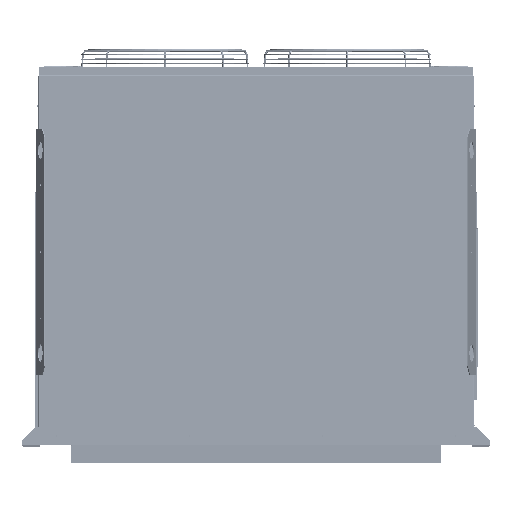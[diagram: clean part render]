
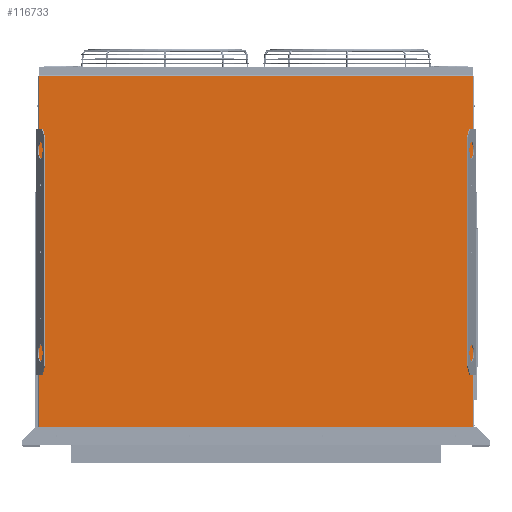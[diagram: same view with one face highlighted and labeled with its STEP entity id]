
A CAD part, top view. The second image highlights one B-rep face of the part: STEP entity #116733.
In plain terms, the highlighted planar face has unit normal (0, 0.044, 0.999) as drawn and (0, 0, 1) by its records, which use the part's own axes.
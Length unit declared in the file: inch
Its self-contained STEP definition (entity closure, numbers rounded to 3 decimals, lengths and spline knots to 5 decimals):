
#2157 = ORIENTED_EDGE ( 'NONE', *, *, #45679, .T. ) ;
#2556 = AXIS2_PLACEMENT_3D ( 'NONE', #151057, #55815, #167080 ) ;
#3056 = DIRECTION ( 'NONE',  ( 1., 0., 0. ) ) ;
#6480 = PLANE ( 'NONE',  #2556 ) ;
#7185 = EDGE_LOOP ( 'NONE', ( #99538 ) ) ;
#7187 = DIRECTION ( 'NONE',  ( 1., 0., 0. ) ) ;
#8819 = VERTEX_POINT ( 'NONE', #122804 ) ;
#9924 = AXIS2_PLACEMENT_3D ( 'NONE', #21415, #132734, #37432 ) ;
#11734 = DIRECTION ( 'NONE',  ( 0., 0., 1. ) ) ;
#11977 = CARTESIAN_POINT ( 'NONE',  ( 50.345, 42.76564, 0.06 ) ) ;
#12472 = VECTOR ( 'NONE', #186262, 39.37008 ) ;
#16726 = VERTEX_POINT ( 'NONE', #157008 ) ;
#17462 = LINE ( 'NONE', #59117, #12472 ) ;
#19270 = CIRCLE ( 'NONE', #141436, 0.0745 ) ;
#21415 = CARTESIAN_POINT ( 'NONE',  ( 2.06, 0.99488, 0.06 ) ) ;
#21669 = VERTEX_POINT ( 'NONE', #58732 ) ;
#22506 = CARTESIAN_POINT ( 'NONE',  ( 50.172, 0.01567, 0.06 ) ) ;
#23159 = VECTOR ( 'NONE', #187096, 39.37008 ) ;
#24259 = FACE_BOUND ( 'NONE', #7185, .T. ) ;
#27249 = EDGE_CURVE ( 'NONE', #193902, #28503, #171137, .T. ) ;
#28199 = LINE ( 'NONE', #11977, #23159 ) ;
#28503 = VERTEX_POINT ( 'NONE', #29674 ) ;
#28931 = DIRECTION ( 'NONE',  ( 0., -1., 0. ) ) ;
#29674 = CARTESIAN_POINT ( 'NONE',  ( 50.172, 0.125, 0.06 ) ) ;
#30831 = EDGE_CURVE ( 'NONE', #91931, #91931, #205489, .T. ) ;
#32811 = CARTESIAN_POINT ( 'NONE',  ( 50.345, 0.125, 0.06 ) ) ;
#34481 = CARTESIAN_POINT ( 'NONE',  ( 50.172, 0., 0.06 ) ) ;
#35800 = EDGE_CURVE ( 'NONE', #50226, #186630, #123162, .T. ) ;
#37432 = DIRECTION ( 'NONE',  ( 1., 0., 0. ) ) ;
#39135 = EDGE_LOOP ( 'NONE', ( #118577 ) ) ;
#45679 = EDGE_CURVE ( 'NONE', #21669, #104262, #17462, .T. ) ;
#46905 = ORIENTED_EDGE ( 'NONE', *, *, #27249, .T. ) ;
#48251 = CARTESIAN_POINT ( 'NONE',  ( 0.188, 0.01567, 0.06 ) ) ;
#48591 = VECTOR ( 'NONE', #3056, 39.37008 ) ;
#50226 = VERTEX_POINT ( 'NONE', #32811 ) ;
#50431 = EDGE_LOOP ( 'NONE', ( #192467, #2157, #176187, #59632, #46905, #106379, #160621, #178014 ) ) ;
#54411 = CARTESIAN_POINT ( 'NONE',  ( 17.47333, 0.99488, 0.06 ) ) ;
#55815 = DIRECTION ( 'NONE',  ( 0., 0., 1. ) ) ;
#58732 = CARTESIAN_POINT ( 'NONE',  ( 0.015, 0.125, 0.06 ) ) ;
#59117 = CARTESIAN_POINT ( 'NONE',  ( 0., 0.125, 0.06 ) ) ;
#59632 = ORIENTED_EDGE ( 'NONE', *, *, #134142, .T. ) ;
#59695 = EDGE_CURVE ( 'NONE', #16726, #16726, #80389, .T. ) ;
#65025 = CARTESIAN_POINT ( 'NONE',  ( 0.188, 0., 0.06 ) ) ;
#65315 = VECTOR ( 'NONE', #159550, 39.37008 ) ;
#65936 = VECTOR ( 'NONE', #204328, 39.37008 ) ;
#69724 = VECTOR ( 'NONE', #81057, 39.37008 ) ;
#70410 = DIRECTION ( 'NONE',  ( 1., 0., 0. ) ) ;
#80389 = CIRCLE ( 'NONE', #197767, 0.0745 ) ;
#81057 = DIRECTION ( 'NONE',  ( 0., -1., 0. ) ) ;
#81572 = FACE_BOUND ( 'NONE', #149483, .T. ) ;
#83902 = EDGE_CURVE ( 'NONE', #104262, #8819, #112027, .T. ) ;
#84319 = AXIS2_PLACEMENT_3D ( 'NONE', #106880, #11734, #122948 ) ;
#86463 = VECTOR ( 'NONE', #130440, 39.37008 ) ;
#89426 = CARTESIAN_POINT ( 'NONE',  ( 17.54783, 0.99488, 0.06 ) ) ;
#91931 = VERTEX_POINT ( 'NONE', #191856 ) ;
#93062 = VERTEX_POINT ( 'NONE', #89426 ) ;
#98065 = EDGE_CURVE ( 'NONE', #150582, #21669, #126529, .T. ) ;
#98246 = CARTESIAN_POINT ( 'NONE',  ( 0., 0.125, 0.06 ) ) ;
#99538 = ORIENTED_EDGE ( 'NONE', *, *, #188275, .F. ) ;
#102333 = DIRECTION ( 'NONE',  ( 0., 0., 1. ) ) ;
#104262 = VERTEX_POINT ( 'NONE', #157468 ) ;
#106379 = ORIENTED_EDGE ( 'NONE', *, *, #138686, .T. ) ;
#106880 = CARTESIAN_POINT ( 'NONE',  ( 32.88667, 0.99488, 0.06 ) ) ;
#107501 = LINE ( 'NONE', #48251, #65315 ) ;
#108804 = FACE_BOUND ( 'NONE', #39135, .T. ) ;
#112027 = LINE ( 'NONE', #65025, #69724 ) ;
#116733 = ADVANCED_FACE ( 'NONE', ( #151190, #24259, #81572, #108804, #188413 ), #6480, .T. ) ;
#118517 = CARTESIAN_POINT ( 'NONE',  ( 0.015, 42.76564, 0.06 ) ) ;
#118577 = ORIENTED_EDGE ( 'NONE', *, *, #59695, .F. ) ;
#122056 = CARTESIAN_POINT ( 'NONE',  ( 2.1345, 0.99488, 0.06 ) ) ;
#122804 = CARTESIAN_POINT ( 'NONE',  ( 0.188, 0.01567, 0.06 ) ) ;
#122948 = DIRECTION ( 'NONE',  ( 1., 0., 0. ) ) ;
#123162 = LINE ( 'NONE', #188390, #65936 ) ;
#126529 = LINE ( 'NONE', #203297, #206001 ) ;
#130440 = DIRECTION ( 'NONE',  ( 0., 1., 0. ) ) ;
#132734 = DIRECTION ( 'NONE',  ( 0., 0., 1. ) ) ;
#134142 = EDGE_CURVE ( 'NONE', #8819, #193902, #107501, .T. ) ;
#138686 = EDGE_CURVE ( 'NONE', #28503, #50226, #170526, .T. ) ;
#141436 = AXIS2_PLACEMENT_3D ( 'NONE', #54411, #165683, #70410 ) ;
#149483 = EDGE_LOOP ( 'NONE', ( #198778 ) ) ;
#150582 = VERTEX_POINT ( 'NONE', #118517 ) ;
#151057 = CARTESIAN_POINT ( 'NONE',  ( 0., 0., 0.06 ) ) ;
#151190 = FACE_BOUND ( 'NONE', #176201, .T. ) ;
#157008 = CARTESIAN_POINT ( 'NONE',  ( 48.3745, 0.99488, 0.06 ) ) ;
#157468 = CARTESIAN_POINT ( 'NONE',  ( 0.188, 0.125, 0.06 ) ) ;
#159550 = DIRECTION ( 'NONE',  ( 1., 0., 0. ) ) ;
#160621 = ORIENTED_EDGE ( 'NONE', *, *, #35800, .T. ) ;
#165683 = DIRECTION ( 'NONE',  ( 0., 0., 1. ) ) ;
#167080 = DIRECTION ( 'NONE',  ( 1., 0., 0. ) ) ;
#167647 = EDGE_CURVE ( 'NONE', #186630, #150582, #28199, .T. ) ;
#170526 = LINE ( 'NONE', #98246, #48591 ) ;
#171137 = LINE ( 'NONE', #34481, #86463 ) ;
#173986 = ORIENTED_EDGE ( 'NONE', *, *, #189787, .F. ) ;
#176187 = ORIENTED_EDGE ( 'NONE', *, *, #83902, .T. ) ;
#176201 = EDGE_LOOP ( 'NONE', ( #173986 ) ) ;
#176827 = CARTESIAN_POINT ( 'NONE',  ( 50.345, 42.76564, 0.06 ) ) ;
#176931 = CIRCLE ( 'NONE', #9924, 0.0745 ) ;
#178014 = ORIENTED_EDGE ( 'NONE', *, *, #167647, .T. ) ;
#186262 = DIRECTION ( 'NONE',  ( 1., 0., 0. ) ) ;
#186630 = VERTEX_POINT ( 'NONE', #176827 ) ;
#187096 = DIRECTION ( 'NONE',  ( -1., 0., 0. ) ) ;
#188275 = EDGE_CURVE ( 'NONE', #93062, #93062, #19270, .T. ) ;
#188390 = CARTESIAN_POINT ( 'NONE',  ( 50.345, 0.125, 0.06 ) ) ;
#188413 = FACE_OUTER_BOUND ( 'NONE', #50431, .T. ) ;
#189787 = EDGE_CURVE ( 'NONE', #199896, #199896, #176931, .T. ) ;
#191856 = CARTESIAN_POINT ( 'NONE',  ( 32.96117, 0.99488, 0.06 ) ) ;
#192467 = ORIENTED_EDGE ( 'NONE', *, *, #98065, .T. ) ;
#193902 = VERTEX_POINT ( 'NONE', #22506 ) ;
#197576 = CARTESIAN_POINT ( 'NONE',  ( 48.3, 0.99488, 0.06 ) ) ;
#197767 = AXIS2_PLACEMENT_3D ( 'NONE', #197576, #102333, #7187 ) ;
#198778 = ORIENTED_EDGE ( 'NONE', *, *, #30831, .F. ) ;
#199896 = VERTEX_POINT ( 'NONE', #122056 ) ;
#203297 = CARTESIAN_POINT ( 'NONE',  ( 0.015, 42.78, 0.06 ) ) ;
#204328 = DIRECTION ( 'NONE',  ( 0., 1., 0. ) ) ;
#205489 = CIRCLE ( 'NONE', #84319, 0.0745 ) ;
#206001 = VECTOR ( 'NONE', #28931, 39.37008 ) ;
